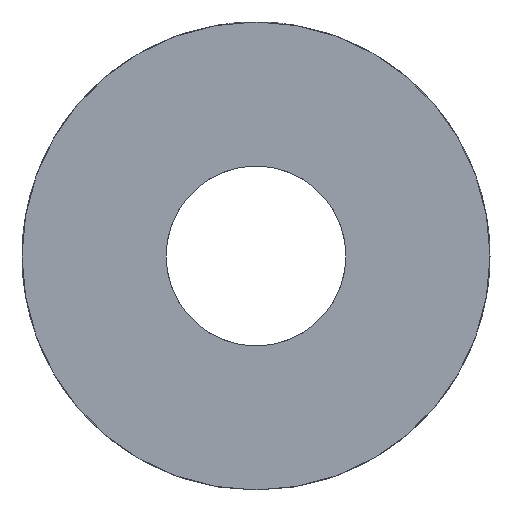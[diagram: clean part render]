
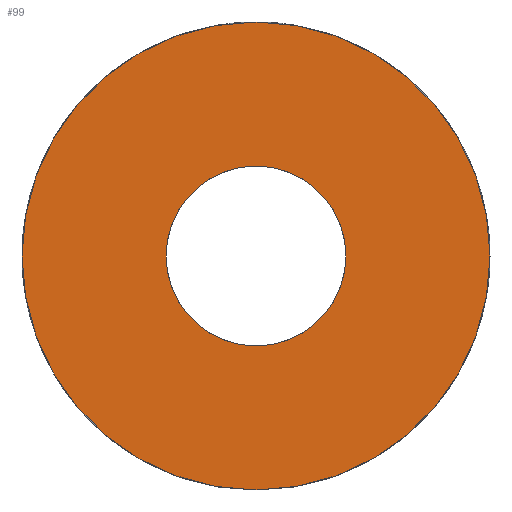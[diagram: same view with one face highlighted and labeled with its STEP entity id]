
A CAD part, left-side view. The second image highlights one B-rep face of the part: STEP entity #99.
In plain terms, the highlighted planar face has unit normal (-1, 0, 0).
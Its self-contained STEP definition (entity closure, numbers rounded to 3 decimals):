
#99=ADVANCED_FACE('',(#1215,#1216),#1245,.T.);
#453=VERTEX_POINT('',#454);
#454=CARTESIAN_POINT('',(-28.,0.,19.5));
#455=EDGE_CURVE('',#461,#453,#456,.T.);
#456=CIRCLE('',#457,19.5);
#457=AXIS2_PLACEMENT_3D('',#458,#459,#460);
#458=CARTESIAN_POINT('',(-28.,0.,0.));
#459=DIRECTION('',(-1.,0.,0.));
#460=DIRECTION('',(0.,1.,0.));
#461=VERTEX_POINT('',#462);
#462=CARTESIAN_POINT('',(-28.,0.,-19.5));
#1215=FACE_OUTER_BOUND('',#1217,.T.);
#1216=FACE_BOUND('',#1218,.T.);
#1217=EDGE_LOOP('',(#1219,#1220));
#1218=EDGE_LOOP('',(#1227,#1228));
#1219=ORIENTED_EDGE('',*,*,#1221,.T.);
#1220=ORIENTED_EDGE('',*,*,#455,.T.);
#1221=EDGE_CURVE('',#453,#461,#1222,.T.);
#1222=CIRCLE('',#1223,19.5);
#1223=AXIS2_PLACEMENT_3D('',#1224,#1225,#1226);
#1224=CARTESIAN_POINT('',(-28.,0.,0.));
#1225=DIRECTION('',(-1.,0.,0.));
#1226=DIRECTION('',(0.,1.,0.));
#1227=ORIENTED_EDGE('',*,*,#1229,.T.);
#1228=ORIENTED_EDGE('',*,*,#1239,.T.);
#1229=EDGE_CURVE('',#1235,#1236,#1230,.T.);
#1230=CIRCLE('',#1231,7.5);
#1231=AXIS2_PLACEMENT_3D('',#1232,#1233,#1234);
#1232=CARTESIAN_POINT('',(-28.,0.,
   0.));
#1233=DIRECTION('',(1.,0.,0.));
#1234=DIRECTION('',(0.,-1.,0.));
#1235=VERTEX_POINT('',#1237);
#1236=VERTEX_POINT('',#1238);
#1237=CARTESIAN_POINT('',(-28.,-7.5,0.));
#1238=CARTESIAN_POINT('',(-28.,7.5,0.));
#1239=EDGE_CURVE('',#1236,#1235,#1240,.T.);
#1240=CIRCLE('',#1241,7.5);
#1241=AXIS2_PLACEMENT_3D('',#1242,#1243,#1244);
#1242=CARTESIAN_POINT('',(-28.,0.,
   0.));
#1243=DIRECTION('',(1.,0.,0.));
#1244=DIRECTION('',(0.,-1.,0.));
#1245=PLANE('',#1246);
#1246=AXIS2_PLACEMENT_3D('',#1247,#1248,#1249);
#1247=CARTESIAN_POINT('',(-28.,0.,0.));
#1248=DIRECTION('',(-1.,0.,0.));
#1249=DIRECTION('',(0.,-1.,0.));
